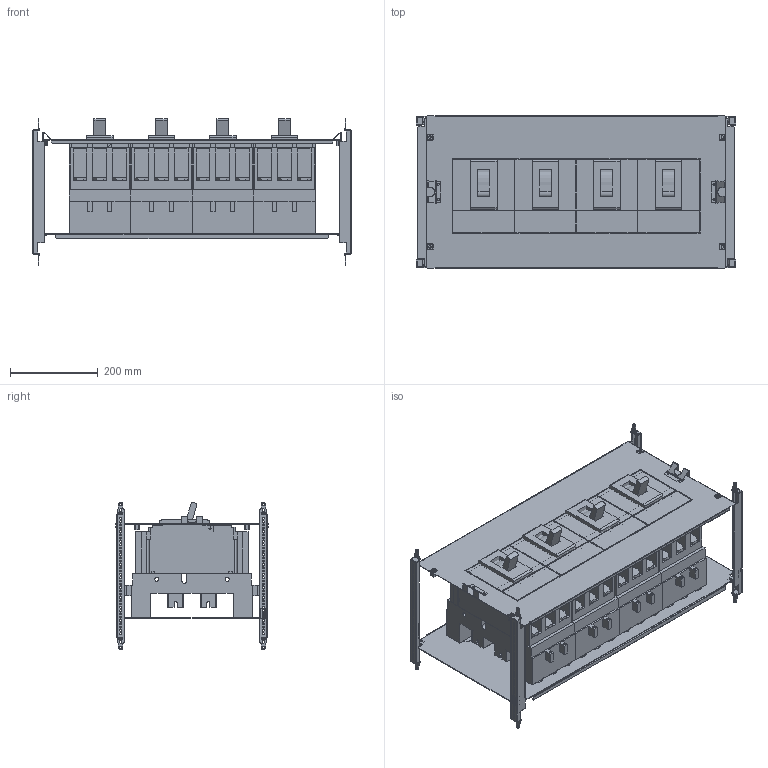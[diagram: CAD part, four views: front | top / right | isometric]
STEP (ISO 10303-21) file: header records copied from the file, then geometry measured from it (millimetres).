
FILE_DESCRIPTION(('CAx-IF Rec.Pracs.---Model Styling and Organization---1.2---2011-12-15','CAx-IF Rec.Pracs.---Geometric and Assembly Validation Properties---4.1---2014-06-16','CAx-IF Rec.Pracs.---PMI Polyline Presentation---2.0---2013-05-24'),'2;1');
FILE_NAME('R5PKIB7V83016 (P).stp','2021-07-29T03:23:08+03:00',(''),(''),'STEP Interface 4.4 by CT CoreTechnologie','3D_Evolution4.4 by CT CoreTechnologie','');
FILE_SCHEMA(('AUTOMOTIVE_DESIGN { 1 0 10303 214 1 1 1 1 }'));
Length unit declared in the file: millimetre
Products named in the file (1): R5PKIB7V83016 (P)
Bounding box: 726 x 348 x 335 mm (x, y, z)
Surface area: 2959541 mm2 (no closed solid volume)
Topology: 0 solids, 86 shells, 3388 faces, 9676 edges, 6492 vertices
Faces by surface type: plane 2336, cylinder 856, bspline 196
Entity records: 112326 total; most frequent: CARTESIAN_POINT 21753, ORIENTED_EDGE 19152, DIRECTION 18032, EDGE_CURVE 9612, VECTOR 7498, LINE 7498, VERTEX_POINT 6500, AXIS2_PLACEMENT_3D 5267
